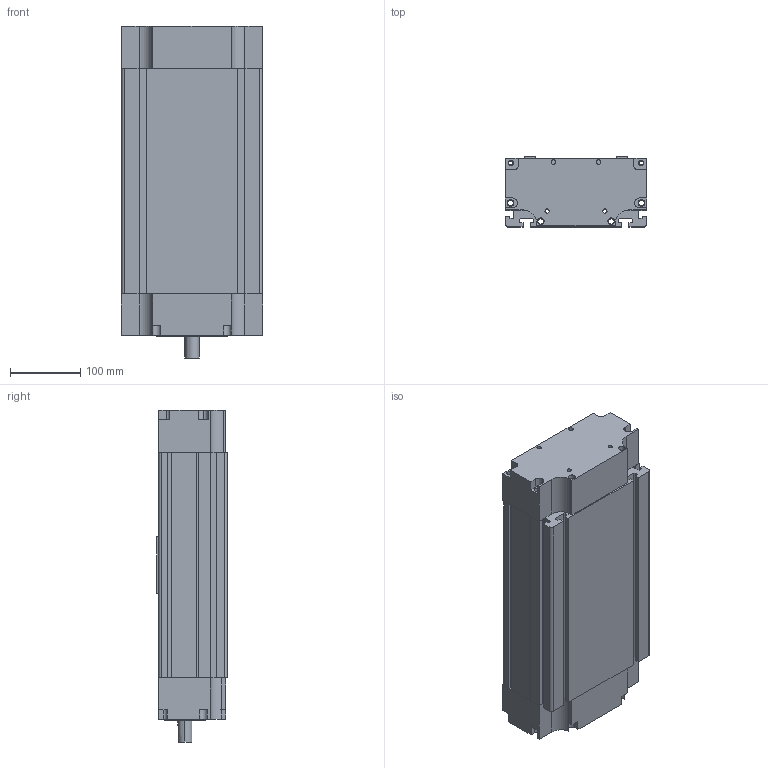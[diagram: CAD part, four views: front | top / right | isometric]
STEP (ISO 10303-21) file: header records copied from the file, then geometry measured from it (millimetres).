
FILE_DESCRIPTION (( 'STEP AP203' ), '1' );
FILE_NAME ('MSY200B-100-LL3220-P7.STEP', '2013-11-02T05:26:43', ( '微软用户' ), ( '微软中国' ), 'SwSTEP 2.0', 'SolidWorks 2010', '' );
FILE_SCHEMA (( 'CONFIG_CONTROL_DESIGN' ));
Length unit declared in the file: millimetre
Products named in the file (1): MSY200B-100-LL3220-P7
Bounding box: 200.2 x 99.96 x 471 mm (x, y, z)
Volume: 7810880.5 mm3; surface area: 462189.4 mm2
Topology: 1 solids, 1 shells, 326 faces, 855 edges, 552 vertices
Faces by surface type: plane 220, cylinder 98, cone 8
Entity records: 10045 total; most frequent: CARTESIAN_POINT 1756, DIRECTION 1702, ORIENTED_EDGE 1694, EDGE_CURVE 847, VECTOR 642, LINE 642, VERTEX_POINT 552, AXIS2_PLACEMENT_3D 530
